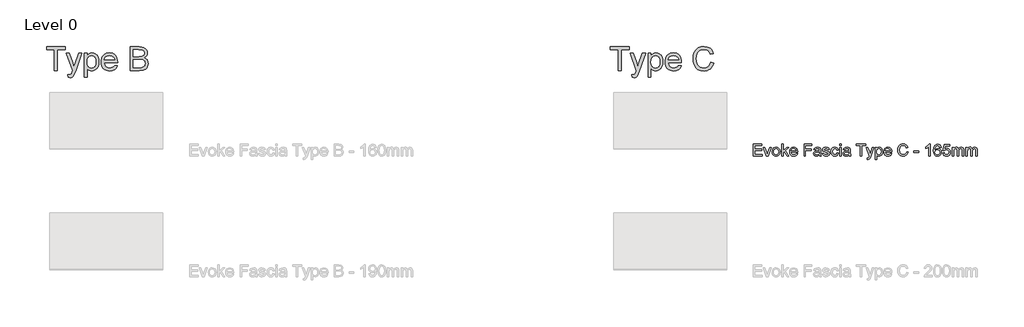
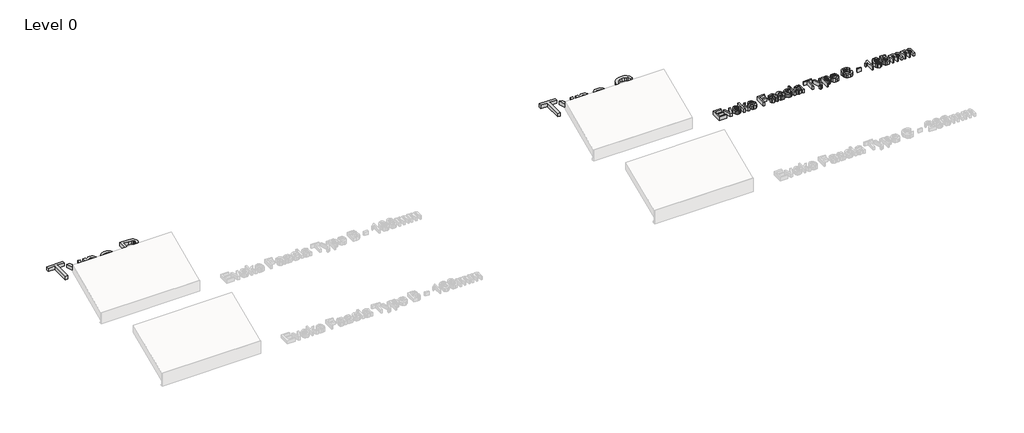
# One storey, part 13 of 13: 3 proxies.
"""IFC4 building model written with IfcOpenShell, lengths in millimetres."""

from ifc_helpers import new_model, si_unit, origin, origin_with_axes, place, context, project, spatial, polyline, outline, extrude, element, save

model = new_model("IFC4")

# Units and contexts
model_context = context("Model", 3, world=origin())
ifc_project = project(units=[si_unit("LENGTHUNIT", "METRE", prefix="MILLI")], contexts=[model_context])

# Site, building, storey
site = spatial("IfcSite", under=ifc_project)
building = spatial("IfcBuilding", under=site)
storey = spatial("IfcBuildingStorey", under=building, Name="Level 0", Elevation=0.0)

# Proxies
placement = place(None, origin())
element("IfcBuildingElementProxy", 1, Name="150mm Arial", ObjectType="150mm Arial", at=placement, inside=storey, context=model_context, shape_type="SweptSolid", body=[
    extrude(outline(polyline([(12568.7201043, 7360.6682311), (12568.7201043, 7508.3605388), (12674.8739504, 7508.3605388), (12674.8739504, 7489.8990003), (12587.1816427, 7489.8990003), (12587.1816427, 7446.0528465), (12670.2585658, 7446.0528465), (12670.2585658, 7427.591308), (12587.1816427, 7427.591308), (12587.1816427, 7379.1297695), (12677.1816427, 7379.1297695), (12677.1816427, 7360.6682311), (12568.7201043, 7360.6682311)])), origin_with_axes(), (0.0, 0.0, 1.0), 50.0),
    extrude(outline(polyline([(12729.176835, 7360.6682311), (12691.0277966, 7469.1297695), (12710.5710658, 7469.1297695), (12733.6840466, 7404.153808), (12740.6431812, 7382.3028465), (12747.458085, 7402.9278465), (12770.7152966, 7469.1297695), (12790.2585658, 7469.1297695), (12752.5782774, 7360.6682311), (12729.176835, 7360.6682311)])), origin_with_axes(), (0.0, 0.0, 1.0), 50.0),
    extrude(outline(polyline([(12801.7970274, 7414.8990003), (12805.7904168, 7441.0498416), (12817.770585, 7459.4302503), (12832.5722677, 7468.435659), (12850.2946235, 7471.4374618), (12869.6891548, 7467.7821133), (12885.1804408, 7456.8160676), (12895.3351884, 7439.4047094), (12898.7201043, 7416.4134234), (12897.22371, 7397.762582), (12892.7345274, 7383.5648657), (12885.3832653, 7372.9323537), (12875.3006331, 7364.9771253), (12863.3249721, 7360.0146854), (12850.2946235, 7358.3605388), (12830.6657173, 7362.0023657), (12815.19246, 7372.9278465), (12805.1458855, 7390.7042888), (12801.7970274, 7414.8990003)]), holes=[polyline([(12820.2585658, 7414.935058), (12822.3949841, 7398.2268248), (12828.8042389, 7386.3232791), (12838.4496716, 7379.1973777), (12850.2946235, 7376.8220772), (12862.0854889, 7379.2108993), (12871.7128927, 7386.3773657), (12878.1221475, 7398.4386638), (12880.2585658, 7415.5119811), (12878.1086259, 7431.7334354), (12871.6588062, 7443.4747215), (12862.0178807, 7450.6006229), (12850.2946235, 7452.9759234), (12838.4496716, 7450.6096373), (12828.8042389, 7443.5107791), (12822.3949841, 7431.6342767), (12820.2585658, 7414.935058)])]), origin_with_axes(), (0.0, 0.0, 1.0), 50.0),
    extrude(outline(polyline([(12919.489335, 7360.6682311), (12919.489335, 7508.3605388), (12937.9508735, 7508.3605388), (12937.9508735, 7428.997558), (12979.3451043, 7469.1297695), (13004.8739504, 7469.1297695), (12962.974912, 7428.4927503), (13007.1816427, 7360.6682311), (12985.6191427, 7360.6682311), (12949.7417389, 7415.6562118), (12937.9508735, 7404.2259234), (12937.9508735, 7360.6682311), (12919.489335, 7360.6682311)])), origin_with_axes(), (0.0, 0.0, 1.0), 50.0),
    extrude(outline(polyline([(13099.2729889, 7392.9759234), (13117.3739504, 7390.6682311), (13110.8520153, 7377.029409), (13100.4448639, 7366.8340965), (13086.3868711, 7360.4789282), (13068.912412, 7358.3605388), (13047.2507533, 7362.0158873), (13030.583085, 7372.981933), (13019.9550802, 7390.5465364), (13016.412412, 7413.997558), (13019.9911379, 7438.2373416), (13030.7273158, 7456.3653465), (13047.1696235, 7467.669433), (13067.8667389, 7471.4374618), (13087.919323, 7467.6784474), (13103.94246, 7456.4014041), (13114.4487701, 7438.309457), (13117.9508735, 7414.1057311), (13117.8427004, 7409.1297695), (13034.8739504, 7409.1297695), (13038.0695634, 7395.310659), (13045.4929408, 7385.1514041), (13056.2065826, 7378.904409), (13069.2729889, 7376.8220772), (13087.3739504, 7380.6802503), (13099.2729889, 7392.9759234)]), holes=[polyline([(13034.8739504, 7427.591308), (13099.489335, 7427.591308), (13096.9923399, 7437.3449138), (13092.0975081, 7444.3220772), (13081.334287, 7450.8124618), (13067.7946235, 7452.9759234), (13055.3502124, 7451.2496614), (13045.0602485, 7446.0708753), (13037.9073038, 7437.9984594), (13034.8739504, 7427.591308)])]), origin_with_axes(), (0.0, 0.0, 1.0), 50.0),
    extrude(outline(polyline([(13196.412412, 7360.6682311), (13196.412412, 7508.3605388), (13295.6431812, 7508.3605388), (13295.6431812, 7489.8990003), (13214.8739504, 7489.8990003), (13214.8739504, 7446.0528465), (13284.1047197, 7446.0528465), (13284.1047197, 7427.591308), (13214.8739504, 7427.591308), (13214.8739504, 7360.6682311), (13196.412412, 7360.6682311)])), origin_with_axes(), (0.0, 0.0, 1.0), 50.0),
    extrude(outline(polyline([(13387.9508735, 7374.5143849), (13370.0482293, 7362.0023657), (13350.270585, 7358.3605388), (13334.8423999, 7360.5510436), (13323.4616908, 7367.122558), (13316.4439624, 7377.1015243), (13314.1047197, 7389.5143849), (13317.6383735, 7404.1177503), (13326.9232293, 7414.7187118), (13339.849912, 7420.7764041), (13355.8234697, 7423.5528465), (13387.8427004, 7429.8990003), (13387.9508735, 7434.0095772), (13386.6798399, 7442.2487599), (13382.8667389, 7447.6393849), (13374.3390947, 7451.6417888), (13362.458085, 7452.9759234), (13343.7802004, 7449.4242407), (13334.8739504, 7436.8220772), (13316.412412, 7439.1297695), (13324.3991908, 7457.1586157), (13340.4809216, 7467.7235195), (13364.8378927, 7471.4374618), (13387.2116908, 7468.1562118), (13399.849912, 7459.9170291), (13405.5109697, 7447.3869811), (13406.412412, 7431.2331349), (13406.412412, 7408.2643849), (13407.349912, 7376.1910676), (13411.0277966, 7360.6682311), (13392.5662581, 7360.6682311), (13387.9508735, 7374.5143849)]), holes=[polyline([(13387.9508735, 7411.4374618), (13358.1672197, 7405.7764041), (13342.2838062, 7402.7836157), (13335.0902966, 7397.9158272), (13332.5662581, 7390.8124618), (13338.0650562, 7380.8244811), (13354.2008735, 7376.8220772), (13372.8787581, 7381.2391445), (13384.9220274, 7391.9302503), (13387.8427004, 7406.2090965), (13387.9508735, 7411.4374618)])]), origin_with_axes(), (0.0, 0.0, 1.0), 50.0),
    extrude(outline(polyline([(13424.8739504, 7392.9759234), (13443.3354889, 7395.2836157), (13446.2471475, 7387.3869811), (13451.881162, 7381.5816926), (13471.4604889, 7376.8220772), (13490.2826043, 7381.185058), (13496.412412, 7391.4254426), (13490.2465466, 7399.7187118), (13471.2441427, 7404.9831349), (13443.443662, 7414.0155868), (13431.3102485, 7424.5624618), (13427.1816427, 7439.4542888), (13430.4989504, 7453.2102984), (13439.5494312, 7463.7211157), (13451.28621, 7469.1838561), (13467.1696235, 7471.4374618), (13489.6335658, 7467.8136638), (13503.912412, 7458.0059715), (13510.2585658, 7441.4374618), (13491.7970274, 7439.1297695), (13484.8559216, 7449.3160676), (13468.6119312, 7452.9759234), (13450.943662, 7449.4783272), (13445.6431812, 7441.3292888), (13447.8427004, 7435.9566926), (13454.7297197, 7431.8821734), (13470.631162, 7427.9518849), (13497.7285177, 7419.2619811), (13510.3126524, 7409.4182311), (13514.8739504, 7393.372558), (13509.5193831, 7375.7042888), (13494.068662, 7362.8857791), (13471.208085, 7358.3605388), (13452.5933014, 7360.5420291), (13439.0085658, 7367.0865003), (13429.9400562, 7377.9218368), (13424.8739504, 7392.9759234)])), origin_with_axes(), (0.0, 0.0, 1.0), 50.0),
    extrude(outline(polyline([(13604.8739504, 7399.8990003), (13623.3354889, 7397.591308), (13618.1882533, 7381.1715364), (13608.5157774, 7368.763183), (13595.2285177, 7360.9611998), (13579.2369312, 7358.3605388), (13559.5990105, 7361.9888441), (13544.2429408, 7372.8737599), (13534.3315826, 7390.5375219), (13531.0277966, 7414.5023657), (13536.6708254, 7445.169433), (13543.7922197, 7456.6673296), (13553.8703447, 7464.8749618), (13565.9271355, 7469.7968368), (13578.9845274, 7471.4374618), (13594.5839865, 7469.1838561), (13607.0554408, 7462.4230388), (13616.0022557, 7451.5155868), (13621.0277966, 7436.8220772), (13602.5662581, 7434.5143849), (13594.0025562, 7448.3425099), (13579.1287581, 7452.9759234), (13567.1981692, 7450.6952743), (13557.7285177, 7443.8533272), (13551.5491307, 7432.0804907), (13549.489335, 7415.0071734), (13551.5040586, 7397.7039883), (13557.5482293, 7385.8905868), (13566.8466067, 7379.0892046), (13578.6239504, 7376.8220772), (13588.1837461, 7378.2373416), (13596.021787, 7382.4831349), (13601.7234096, 7389.6676301), (13604.8739504, 7399.8990003)])), origin_with_axes(), (0.0, 0.0, 1.0), 50.0),
    extrude(outline(polyline([(13639.489335, 7489.8990003), (13639.489335, 7508.3605388), (13657.9508735, 7508.3605388), (13657.9508735, 7489.8990003), (13639.489335, 7489.8990003)])), origin_with_axes(), (0.0, 0.0, 1.0), 50.0),
    extrude(outline(polyline([(13639.489335, 7360.6682311), (13639.489335, 7469.1297695), (13657.9508735, 7469.1297695), (13657.9508735, 7360.6682311), (13639.489335, 7360.6682311)])), origin_with_axes(), (0.0, 0.0, 1.0), 50.0),
    extrude(outline(polyline([(13754.8739504, 7374.5143849), (13736.9713062, 7362.0023657), (13717.193662, 7358.3605388), (13701.7654769, 7360.5510436), (13690.3847677, 7367.122558), (13683.3670394, 7377.1015243), (13681.0277966, 7389.5143849), (13684.5614504, 7404.1177503), (13693.8463062, 7414.7187118), (13706.7729889, 7420.7764041), (13722.7465466, 7423.5528465), (13754.7657774, 7429.8990003), (13754.8739504, 7434.0095772), (13753.6029168, 7442.2487599), (13749.7898158, 7447.6393849), (13741.2621716, 7451.6417888), (13729.381162, 7452.9759234), (13710.7032774, 7449.4242407), (13701.7970274, 7436.8220772), (13683.3354889, 7439.1297695), (13691.3222677, 7457.1586157), (13707.4039985, 7467.7235195), (13731.7609697, 7471.4374618), (13754.1347677, 7468.1562118), (13766.7729889, 7459.9170291), (13772.4340466, 7447.3869811), (13773.3354889, 7431.2331349), (13773.3354889, 7408.2643849), (13774.2729889, 7376.1910676), (13777.9508735, 7360.6682311), (13759.489335, 7360.6682311), (13754.8739504, 7374.5143849)]), holes=[polyline([(13754.8739504, 7411.4374618), (13725.0902966, 7405.7764041), (13709.2068831, 7402.7836157), (13702.0133735, 7397.9158272), (13699.489335, 7390.8124618), (13704.9881331, 7380.8244811), (13721.1239504, 7376.8220772), (13739.801835, 7381.2391445), (13751.8451043, 7391.9302503), (13754.7657774, 7406.2090965), (13754.8739504, 7411.4374618)])]), origin_with_axes(), (0.0, 0.0, 1.0), 50.0),
    extrude(outline(polyline([(13895.6431812, 7360.6682311), (13895.6431812, 7489.8990003), (13847.1816427, 7489.8990003), (13847.1816427, 7508.3605388), (13962.5662581, 7508.3605388), (13962.5662581, 7489.8990003), (13914.1047197, 7489.8990003), (13914.1047197, 7360.6682311), (13895.6431812, 7360.6682311)])), origin_with_axes(), (0.0, 0.0, 1.0), 50.0),
    extrude(outline(polyline([(13981.0277966, 7319.1297695), (13978.7201043, 7336.9062118), (13988.0951043, 7335.2836157), (13996.8571235, 7337.3208753), (14002.2297197, 7342.9999618), (14007.2777966, 7356.5937118), (14008.7201043, 7361.0648657), (13969.489335, 7469.1297695), (13988.9604889, 7469.1297695), (14009.7657774, 7408.9134234), (14017.0133735, 7384.8268849), (14024.2609697, 7406.1009234), (14045.6431812, 7469.1297695), (14064.9701043, 7469.1297695), (14027.2177004, 7358.0720772), (14017.4100081, 7333.9855388), (14006.7008735, 7320.9687118), (13992.3138543, 7316.8220772), (13981.0277966, 7319.1297695)])), origin_with_axes(), (0.0, 0.0, 1.0), 50.0),
    extrude(outline(polyline([(14080.2585658, 7319.1297695), (14080.2585658, 7469.1297695), (14098.7201043, 7469.1297695), (14098.7201043, 7451.028808), (14111.4845274, 7466.3352984), (14128.7201043, 7471.4374618), (14141.2050802, 7469.6526061), (14152.1215466, 7464.2980388), (14161.0097677, 7455.6982791), (14167.4100081, 7444.1778465), (14172.5662581, 7415.7283272), (14171.1104288, 7399.9395652), (14166.7429408, 7385.8184715), (14159.6035177, 7374.0816926), (14149.8318831, 7365.4458753), (14138.451174, 7360.1318729), (14126.4845274, 7358.3605388), (14110.4208254, 7363.1021253), (14098.7201043, 7375.091308), (14098.7201043, 7319.1297695), (14080.2585658, 7319.1297695)]), holes=[polyline([(14098.7201043, 7414.0336157), (14100.716799, 7397.4831349), (14106.7068831, 7385.9086157), (14115.5455249, 7379.0937118), (14126.0878927, 7376.8220772), (14136.8015346, 7379.1748416), (14145.865537, 7386.2331349), (14152.044924, 7398.231332), (14154.1047197, 7415.403808), (14152.0945033, 7431.8641445), (14146.0638543, 7443.6009234), (14137.2387341, 7450.6321734), (14126.8451043, 7452.9759234), (14116.4109096, 7450.4834354), (14107.2477485, 7443.0059715), (14100.8520153, 7430.7779066), (14098.7201043, 7414.0336157)])]), origin_with_axes(), (0.0, 0.0, 1.0), 50.0),
    extrude(outline(polyline([(14269.2729889, 7392.9759234), (14287.3739504, 7390.6682311), (14280.8520153, 7377.029409), (14270.4448639, 7366.8340965), (14256.3868711, 7360.4789282), (14238.912412, 7358.3605388), (14217.2507533, 7362.0158873), (14200.583085, 7372.981933), (14189.9550802, 7390.5465364), (14186.412412, 7413.997558), (14189.9911379, 7438.2373416), (14200.7273158, 7456.3653465), (14217.1696235, 7467.669433), (14237.8667389, 7471.4374618), (14257.919323, 7467.6784474), (14273.94246, 7456.4014041), (14284.4487701, 7438.309457), (14287.9508735, 7414.1057311), (14287.8427004, 7409.1297695), (14204.8739504, 7409.1297695), (14208.0695634, 7395.310659), (14215.4929408, 7385.1514041), (14226.2065826, 7378.904409), (14239.2729889, 7376.8220772), (14257.3739504, 7380.6802503), (14269.2729889, 7392.9759234)]), holes=[polyline([(14204.8739504, 7427.591308), (14269.489335, 7427.591308), (14266.9923399, 7437.3449138), (14262.0975081, 7444.3220772), (14251.334287, 7450.8124618), (14237.7946235, 7452.9759234), (14225.3502124, 7451.2496614), (14215.0602485, 7446.0708753), (14207.9073038, 7437.9984594), (14204.8739504, 7427.591308)])]), origin_with_axes(), (0.0, 0.0, 1.0), 50.0),
    extrude(outline(polyline([(14470.2585658, 7413.1682311), (14488.7201043, 7408.4086157), (14480.2014745, 7386.895695), (14466.833085, 7371.1790484), (14449.2729889, 7361.5651662), (14428.1792389, 7358.3605388), (14406.7654769, 7360.7854186), (14389.7597677, 7368.060058), (14376.724912, 7379.9320532), (14367.22371, 7396.1490003), (14361.4229288, 7415.2145051), (14359.489335, 7435.6321734), (14361.6753326, 7457.1676301), (14368.2333254, 7475.7643849), (14378.8207653, 7490.8319931), (14393.0951043, 7501.7800099), (14410.0241908, 7508.4461758), (14428.5758735, 7510.6682311), (14448.8177605, 7507.7926301), (14465.553037, 7499.1658272), (14478.2588663, 7485.3196734), (14486.412412, 7466.7860195), (14467.9508735, 7462.3869811), (14461.5506331, 7475.8500219), (14452.8066427, 7485.0852984), (14441.6107293, 7490.4263441), (14427.8547197, 7492.2066926), (14411.9983495, 7490.232534), (14398.9725081, 7484.310058), (14389.0881932, 7475.0612599), (14382.6564024, 7463.1081349), (14377.9508735, 7435.6682311), (14383.521787, 7403.8653465), (14390.6431812, 7391.9888441), (14400.865537, 7383.5468368), (14413.1206451, 7378.5032671), (14426.3402966, 7376.8220772), (14441.7504528, 7379.1117407), (14454.5914985, 7385.9807311), (14464.2865105, 7397.356933), (14470.2585658, 7413.1682311)])), origin_with_axes(), (0.0, 0.0, 1.0), 50.0),
    extrude(outline(polyline([(14560.2585658, 7404.5143849), (14560.2585658, 7422.9759234), (14617.9508735, 7422.9759234), (14617.9508735, 7404.5143849), (14560.2585658, 7404.5143849)])), origin_with_axes(), (0.0, 0.0, 1.0), 50.0),
    extrude(outline(polyline([(14761.0277966, 7360.6682311), (14742.5662581, 7360.6682311), (14742.5662581, 7475.7643849), (14725.0782774, 7463.3064522), (14705.6431812, 7453.9855388), (14705.6431812, 7471.4374618), (14732.7044793, 7488.7090965), (14749.1287581, 7508.3605388), (14761.0277966, 7508.3605388), (14761.0277966, 7360.6682311)])), origin_with_axes(), (0.0, 0.0, 1.0), 50.0),
    extrude(outline(polyline([(14899.489335, 7469.1297695), (14881.0277966, 7466.8220772), (14874.0326043, 7482.2187118), (14865.6582052, 7487.9789282), (14855.5350081, 7489.8990003), (14838.8763543, 7485.4278465), (14826.2741908, 7468.6429907), (14822.4475682, 7454.8914883), (14821.0277966, 7435.7403465), (14837.3078447, 7450.4699138), (14857.4821235, 7455.2836157), (14874.537412, 7451.9933513), (14888.8523158, 7442.122558), (14898.5608495, 7427.0414282), (14901.7970274, 7408.1201541), (14900.2735899, 7394.9005027), (14895.7032774, 7382.6453945), (14888.4646956, 7372.2517647), (14878.9364504, 7364.6165484), (14867.5512341, 7359.9245412), (14854.7417389, 7358.3605388), (14833.7967269, 7362.5071734), (14817.115537, 7374.9470772), (14806.2035778, 7396.9062118), (14802.5662581, 7429.6105388), (14806.6047197, 7466.3803705), (14818.7201043, 7491.5215965), (14835.2615706, 7504.1508032), (14856.6888543, 7508.3605388), (14872.8877725, 7505.7553705), (14885.8595274, 7497.9398657), (14894.9460658, 7485.5270051), (14899.489335, 7469.1297695)]), holes=[polyline([(14821.0277966, 7408.4086157), (14825.3006331, 7392.4170291), (14836.6588062, 7380.8064522), (14853.2994312, 7376.8220772), (14865.482424, 7378.8863801), (14875.0602485, 7385.0792888), (14881.2666788, 7394.8148657), (14883.3354889, 7407.5071734), (14881.2937221, 7419.6901662), (14875.1684216, 7428.9795291), (14865.4283374, 7434.8614402), (14852.5422197, 7436.8220772), (14840.3772557, 7434.8614402), (14830.2044793, 7428.9795291), (14823.3219673, 7419.9155267), (14821.0277966, 7408.4086157)])]), origin_with_axes(), (0.0, 0.0, 1.0), 50.0),
    extrude(outline(polyline([(14917.9508735, 7399.8990003), (14936.412412, 7402.2066926), (14939.801835, 7391.1234594), (14945.7152966, 7383.1862599), (14954.1257533, 7378.4131229), (14965.006162, 7376.8220772), (14978.239335, 7379.0351181), (14988.1552004, 7385.6742407), (14994.3481091, 7395.9732191), (14996.412412, 7409.1658272), (14994.4788182, 7421.5877022), (14988.678037, 7431.0889041), (14978.9649961, 7437.1195532), (14965.2946235, 7439.1297695), (14949.0866908, 7435.9206349), (14938.7201043, 7427.591308), (14920.2585658, 7429.8990003), (14936.412412, 7506.0528465), (15007.9508735, 7506.0528465), (15007.9508735, 7487.591308), (14951.3402966, 7487.591308), (14943.443662, 7446.9182311), (14956.6317629, 7454.9230388), (14970.4508735, 7457.591308), (14987.6999721, 7454.2830147), (15002.0193831, 7444.3581349), (15011.6603086, 7429.231933), (15014.8739504, 7410.3196734), (15011.9803206, 7391.8581349), (15003.2994312, 7376.0648657), (14986.676835, 7362.7866205), (14964.9340466, 7358.3605388), (14946.8015346, 7361.2045892), (14932.3559216, 7369.7367407), (14922.4535778, 7382.9654066), (14917.9508735, 7399.8990003)])), origin_with_axes(), (0.0, 0.0, 1.0), 50.0),
    extrude(outline(polyline([(15035.6431812, 7360.6682311), (15035.6431812, 7469.1297695), (15054.1047197, 7469.1297695), (15054.1047197, 7451.2812118), (15066.7970274, 7465.9026061), (15084.8619312, 7471.4374618), (15095.1293591, 7470.0267046), (15103.3595274, 7465.794433), (15113.5277966, 7449.9831349), (15127.9328447, 7466.0738801), (15146.1239504, 7471.4374618), (15160.0016548, 7469.2063921), (15170.2645754, 7462.513183), (15176.6062221, 7451.177546), (15178.7201043, 7435.0191926), (15178.7201043, 7360.6682311), (15160.2585658, 7360.6682311), (15160.2585658, 7427.0865003), (15158.5458254, 7442.5011638), (15152.3439024, 7450.091308), (15141.7970274, 7452.9759234), (15131.7955249, 7451.1279666), (15123.6419793, 7445.5840965), (15118.2198038, 7435.965707), (15116.412412, 7421.8941926), (15116.412412, 7360.6682311), (15097.9508735, 7360.6682311), (15097.9508735, 7429.1417888), (15093.678037, 7447.0264041), (15088.0395153, 7451.4885436), (15079.6696235, 7452.9759234), (15066.0037581, 7449.0095772), (15056.9172197, 7437.3990003), (15054.1047197, 7415.3677503), (15054.1047197, 7360.6682311), (15035.6431812, 7360.6682311)])), origin_with_axes(), (0.0, 0.0, 1.0), 50.0),
    extrude(outline(polyline([(15206.412412, 7360.6682311), (15206.412412, 7469.1297695), (15224.8739504, 7469.1297695), (15224.8739504, 7451.2812118), (15237.5662581, 7465.9026061), (15255.631162, 7471.4374618), (15265.8985899, 7470.0267046), (15274.1287581, 7465.794433), (15284.2970274, 7449.9831349), (15298.7020754, 7466.0738801), (15316.8931812, 7471.4374618), (15330.7708855, 7469.2063921), (15341.0338062, 7462.513183), (15347.3754528, 7451.177546), (15349.489335, 7435.0191926), (15349.489335, 7360.6682311), (15331.0277966, 7360.6682311), (15331.0277966, 7427.0865003), (15329.3150562, 7442.5011638), (15323.1131331, 7450.091308), (15312.5662581, 7452.9759234), (15302.5647557, 7451.1279666), (15294.41121, 7445.5840965), (15288.9890346, 7435.965707), (15287.1816427, 7421.8941926), (15287.1816427, 7360.6682311), (15268.7201043, 7360.6682311), (15268.7201043, 7429.1417888), (15264.4472677, 7447.0264041), (15258.8087461, 7451.4885436), (15250.4388543, 7452.9759234), (15236.7729889, 7449.0095772), (15227.6864504, 7437.3990003), (15224.8739504, 7415.3677503), (15224.8739504, 7360.6682311), (15206.412412, 7360.6682311)])), origin_with_axes(), (0.0, 0.0, 1.0), 50.0),
])
element("IfcBuildingElementProxy", 2, Name="300mm Arial", ObjectType="300mm Arial", at=placement, inside=storey, context=model_context, shape_type="SweptSolid", body=[
    extrude(outline(polyline([(3890.9531513, 8422.9991301), (3890.9531513, 8681.4606686), (3794.0300744, 8681.4606686), (3794.0300744, 8718.3837455), (4024.7993052, 8718.3837455), (4024.7993052, 8681.4606686), (3927.8762282, 8681.4606686), (3927.8762282, 8422.9991301), (3890.9531513, 8422.9991301)])), origin_with_axes(), (0.0, 0.0, 1.0), 50.0),
    extrude(outline(polyline([(4061.7223821, 8339.9222071), (4057.1069975, 8375.4750917), (4075.8569975, 8372.2298994), (4093.3810359, 8376.3044186), (4104.1262282, 8387.6625917), (4114.2223821, 8414.8500917), (4117.1069975, 8423.7923994), (4038.645459, 8639.9222071), (4077.5877667, 8639.9222071), (4119.1983436, 8519.4895147), (4133.6935359, 8471.3164378), (4148.1887282, 8513.8645147), (4190.9531513, 8639.9222071), (4229.6069975, 8639.9222071), (4154.1021898, 8417.8068224), (4134.4868052, 8369.6337455), (4124.4447378, 8354.2551397), (4113.0685359, 8343.6000917), (4099.8533917, 8337.3801397), (4084.2944975, 8335.3068224), (4061.7223821, 8339.9222071)])), origin_with_axes(), (0.0, 0.0, 1.0), 50.0),
    extrude(outline(polyline([(4260.1839205, 8339.9222071), (4260.1839205, 8639.9222071), (4297.1069975, 8639.9222071), (4297.1069975, 8603.720284), (4309.1502667, 8621.5778561), (4322.6358436, 8634.3332647), (4338.3569975, 8641.9865099), (4357.1069975, 8644.5375917), (4382.0769494, 8640.9678801), (4403.9098821, 8630.2587455), (4421.6863244, 8613.0592263), (4434.4868052, 8590.0183609), (4442.2211802, 8562.8128321), (4444.7993052, 8533.1193224), (4441.8876465, 8501.5417984), (4433.1526705, 8473.2996109), (4418.8738244, 8449.8260532), (4399.3305552, 8432.5544186), (4376.5691369, 8421.9264138), (4352.6358436, 8418.3837455), (4335.661685, 8420.7545388), (4320.5084398, 8427.8669186), (4307.536685, 8438.6030965), (4297.1069975, 8451.845284), (4297.1069975, 8339.9222071), (4260.1839205, 8339.9222071)]), holes=[polyline([(4297.1069975, 8529.7298994), (4301.1003869, 8496.6289378), (4313.0805552, 8473.4798994), (4330.7578388, 8459.8500917), (4351.8425744, 8455.3068224), (4373.269858, 8460.0123513), (4391.3978628, 8474.1289378), (4403.7566369, 8498.1253321), (4407.8762282, 8532.470284), (4403.8557955, 8565.3909571), (4391.7944975, 8588.8645147), (4374.1442571, 8602.9270147), (4353.3569975, 8607.6145147), (4332.488608, 8602.6295388), (4314.1622859, 8587.6746109), (4301.3708196, 8563.2184811), (4297.1069975, 8529.7298994)])]), origin_with_axes(), (0.0, 0.0, 1.0), 50.0),
    extrude(outline(polyline([(4638.2127667, 8487.6145147), (4674.4146898, 8482.9991301), (4661.3708196, 8455.7214859), (4640.5565167, 8435.3308609), (4612.4405311, 8422.6205244), (4577.4916128, 8418.3837455), (4554.5814566, 8420.2114198), (4534.1682955, 8425.6944426), (4516.2521297, 8434.832814), (4500.832959, 8447.626534), (4488.4336201, 8463.7195328), (4479.5769494, 8482.7557407), (4474.262947, 8504.7351578), (4472.4916128, 8529.657784), (4474.2809758, 8555.4255123), (4479.6490648, 8578.1373513), (4488.5958797, 8597.7933008), (4501.1214205, 8614.3933609), (4516.5000263, 8627.5814619), (4534.0060359, 8637.001534), (4553.6394494, 8642.6535772), (4575.4002667, 8644.5375917), (4596.4602126, 8642.6580845), (4615.505435, 8637.0195628), (4632.5359338, 8627.6220268), (4647.551709, 8614.4654763), (4659.8090708, 8597.9014739), (4668.5643292, 8578.2815821), (4673.8174842, 8555.6058008), (4675.5685359, 8529.8741301), (4675.3521898, 8519.9222071), (4509.4146898, 8519.9222071), (4515.8059157, 8492.2839859), (4530.6526705, 8471.9654763), (4552.0799542, 8459.4714859), (4578.2127667, 8455.3068224), (4597.864209, 8457.235909), (4614.4146898, 8463.0231686), (4627.864209, 8473.0291782), (4638.2127667, 8487.6145147)]), holes=[polyline([(4509.4146898, 8556.845284), (4638.645459, 8556.845284), (4633.6514686, 8576.3524955), (4623.8618052, 8590.3068224), (4602.3353628, 8603.2875917), (4575.2560359, 8607.6145147), (4550.3672138, 8604.1619907), (4529.7872859, 8593.8044186), (4515.4813965, 8577.6595869), (4509.4146898, 8556.845284)])]), origin_with_axes(), (0.0, 0.0, 1.0), 50.0),
    extrude(outline(polyline([(4832.4916128, 8422.9991301), (4832.4916128, 8718.3837455), (4945.207959, 8718.3837455), (4976.20856, 8716.2112696), (5000.4122859, 8709.6938417), (5018.9639686, 8698.6692022), (5033.0084398, 8682.9750917), (5041.8515888, 8664.5135532), (5044.7993052, 8645.1866301), (5042.3203388, 8627.4011734), (5034.8834398, 8610.6794186), (5022.4345215, 8596.0490099), (5004.9194975, 8584.5375917), (5025.8419734, 8573.6121109), (5041.301709, 8556.9895147), (5050.847983, 8535.7695628), (5054.0300744, 8511.0520147), (5051.8575984, 8490.454058), (5045.3401705, 8471.3524955), (5035.613608, 8455.1085051), (5023.8137282, 8443.0832647), (5009.363608, 8434.3753321), (4991.6863244, 8428.0832647), (4944.3425744, 8422.9991301), (4832.4916128, 8422.9991301)]), holes=[polyline([(4869.4146898, 8459.9222071), (4945.1358436, 8459.9222071), (4972.5396898, 8461.3645147), (4995.7247859, 8469.4053801), (5011.0853628, 8485.8116301), (5015.6015888, 8497.4041782), (5017.1069975, 8510.6914378), (5015.3401705, 8526.1241301), (5010.0396898, 8539.3933609), (5000.7818773, 8549.7689619), (4987.1430552, 8556.5207647), (4967.8251465, 8560.2256926), (4941.5300744, 8561.4606686), (4869.4146898, 8561.4606686), (4869.4146898, 8459.9222071)]), polyline([(4869.4146898, 8598.3837455), (4936.8425744, 8598.3837455), (4976.2175744, 8601.5568224), (4990.0006273, 8607.0285772), (4999.9074782, 8615.2226878), (5005.8840407, 8626.0129522), (5007.8762282, 8639.2731686), (5006.0192571, 8652.1457647), (5000.4483436, 8663.3597071), (4991.4158917, 8672.1127119), (4979.1743052, 8677.6024955), (4931.7223821, 8681.4606686), (4869.4146898, 8681.4606686), (4869.4146898, 8598.3837455)])]), origin_with_axes(), (0.0, 0.0, 1.0), 50.0),
])
element("IfcBuildingElementProxy", 3, Name="300mm Arial", ObjectType="300mm Arial", at=placement, inside=storey, context=model_context, shape_type="SweptSolid", body=[
    extrude(outline(polyline([(10890.9531513, 8422.9991301), (10890.9531513, 8681.4606686), (10794.0300744, 8681.4606686), (10794.0300744, 8718.3837455), (11024.7993052, 8718.3837455), (11024.7993052, 8681.4606686), (10927.8762282, 8681.4606686), (10927.8762282, 8422.9991301), (10890.9531513, 8422.9991301)])), origin_with_axes(), (0.0, 0.0, 1.0), 50.0),
    extrude(outline(polyline([(11061.7223821, 8339.9222071), (11057.1069975, 8375.4750917), (11075.8569975, 8372.2298994), (11093.3810359, 8376.3044186), (11104.1262282, 8387.6625917), (11114.2223821, 8414.8500917), (11117.1069975, 8423.7923994), (11038.645459, 8639.9222071), (11077.5877667, 8639.9222071), (11119.1983436, 8519.4895147), (11133.6935359, 8471.3164378), (11148.1887282, 8513.8645147), (11190.9531513, 8639.9222071), (11229.6069975, 8639.9222071), (11154.1021898, 8417.8068224), (11134.4868052, 8369.6337455), (11124.4447378, 8354.2551397), (11113.0685359, 8343.6000917), (11099.8533917, 8337.3801397), (11084.2944975, 8335.3068224), (11061.7223821, 8339.9222071)])), origin_with_axes(), (0.0, 0.0, 1.0), 50.0),
    extrude(outline(polyline([(11260.1839205, 8339.9222071), (11260.1839205, 8639.9222071), (11297.1069975, 8639.9222071), (11297.1069975, 8603.720284), (11309.1502667, 8621.5778561), (11322.6358436, 8634.3332647), (11338.3569975, 8641.9865099), (11357.1069975, 8644.5375917), (11382.0769494, 8640.9678801), (11403.9098821, 8630.2587455), (11421.6863244, 8613.0592263), (11434.4868052, 8590.0183609), (11442.2211802, 8562.8128321), (11444.7993052, 8533.1193224), (11441.8876465, 8501.5417984), (11433.1526705, 8473.2996109), (11418.8738244, 8449.8260532), (11399.3305552, 8432.5544186), (11376.5691369, 8421.9264138), (11352.6358436, 8418.3837455), (11335.661685, 8420.7545388), (11320.5084398, 8427.8669186), (11307.536685, 8438.6030965), (11297.1069975, 8451.845284), (11297.1069975, 8339.9222071), (11260.1839205, 8339.9222071)]), holes=[polyline([(11297.1069975, 8529.7298994), (11301.1003869, 8496.6289378), (11313.0805552, 8473.4798994), (11330.7578388, 8459.8500917), (11351.8425744, 8455.3068224), (11373.269858, 8460.0123513), (11391.3978628, 8474.1289378), (11403.7566369, 8498.1253321), (11407.8762282, 8532.470284), (11403.8557955, 8565.3909571), (11391.7944975, 8588.8645147), (11374.1442571, 8602.9270147), (11353.3569975, 8607.6145147), (11332.488608, 8602.6295388), (11314.1622859, 8587.6746109), (11301.3708196, 8563.2184811), (11297.1069975, 8529.7298994)])]), origin_with_axes(), (0.0, 0.0, 1.0), 50.0),
    extrude(outline(polyline([(11638.2127667, 8487.6145147), (11674.4146898, 8482.9991301), (11661.3708196, 8455.7214859), (11640.5565167, 8435.3308609), (11612.4405311, 8422.6205244), (11577.4916128, 8418.3837455), (11554.5814566, 8420.2114198), (11534.1682955, 8425.6944426), (11516.2521297, 8434.832814), (11500.832959, 8447.626534), (11488.4336201, 8463.7195328), (11479.5769494, 8482.7557407), (11474.262947, 8504.7351578), (11472.4916128, 8529.657784), (11474.2809758, 8555.4255123), (11479.6490648, 8578.1373513), (11488.5958797, 8597.7933008), (11501.1214205, 8614.3933609), (11516.5000263, 8627.5814619), (11534.0060359, 8637.001534), (11553.6394494, 8642.6535772), (11575.4002667, 8644.5375917), (11596.4602126, 8642.6580845), (11615.505435, 8637.0195628), (11632.5359338, 8627.6220268), (11647.551709, 8614.4654763), (11659.8090708, 8597.9014739), (11668.5643292, 8578.2815821), (11673.8174842, 8555.6058008), (11675.5685359, 8529.8741301), (11675.3521898, 8519.9222071), (11509.4146898, 8519.9222071), (11515.8059157, 8492.2839859), (11530.6526705, 8471.9654763), (11552.0799542, 8459.4714859), (11578.2127667, 8455.3068224), (11597.864209, 8457.235909), (11614.4146898, 8463.0231686), (11627.864209, 8473.0291782), (11638.2127667, 8487.6145147)]), holes=[polyline([(11509.4146898, 8556.845284), (11638.645459, 8556.845284), (11633.6514686, 8576.3524955), (11623.8618052, 8590.3068224), (11602.3353628, 8603.2875917), (11575.2560359, 8607.6145147), (11550.3672138, 8604.1619907), (11529.7872859, 8593.8044186), (11515.4813965, 8577.6595869), (11509.4146898, 8556.845284)])]), origin_with_axes(), (0.0, 0.0, 1.0), 50.0),
    extrude(outline(polyline([(12040.1839205, 8527.9991301), (12077.1069975, 8518.4798994), (12069.8008076, 8495.5179102), (12060.0697378, 8475.454058), (12047.9137883, 8458.2883429), (12033.332959, 8444.0207647), (12016.6562763, 8432.8045688), (11998.2127667, 8424.7930003), (11978.0024302, 8419.9860592), (11956.0252667, 8418.3837455), (11913.1977427, 8423.2335051), (11879.1863244, 8437.782784), (11853.1166128, 8461.5267744), (11834.114209, 8493.9606686), (11822.5126465, 8532.0916782), (11818.645459, 8572.9270147), (11823.0174542, 8615.9979282), (11836.1334398, 8653.1914378), (11857.3083196, 8683.3266542), (11885.8569975, 8705.2226878), (11919.7151705, 8718.5550196), (11956.8185359, 8722.9991301), (11997.30231, 8717.2479282), (12014.9142391, 8710.0589258), (12030.7728628, 8699.9943224), (12044.6167631, 8687.3200436), (12056.1845215, 8672.3020147), (12072.4916128, 8635.2347071), (12035.5685359, 8626.4366301), (12022.7680552, 8653.3627119), (12005.2800744, 8671.8332647), (11982.8882475, 8682.5153561), (11955.3762282, 8686.0760532), (11923.6634878, 8682.1277359), (11897.6118052, 8670.282784), (11877.8431753, 8651.7851878), (11864.9795936, 8627.8789378), (11857.9213003, 8600.8536974), (11855.5685359, 8572.9991301), (11858.3539927, 8538.8885532), (11866.7103628, 8509.3933609), (11880.9531513, 8485.6403561), (11901.3978628, 8468.7563417), (11925.9080792, 8458.6692022), (11952.3473821, 8455.3068224), (11983.1676946, 8459.8861494), (12008.8497859, 8473.6241301), (12028.23981, 8496.376534), (12040.1839205, 8527.9991301)])), origin_with_axes(), (0.0, 0.0, 1.0), 50.0),
])

save(model, "model.ifc")
